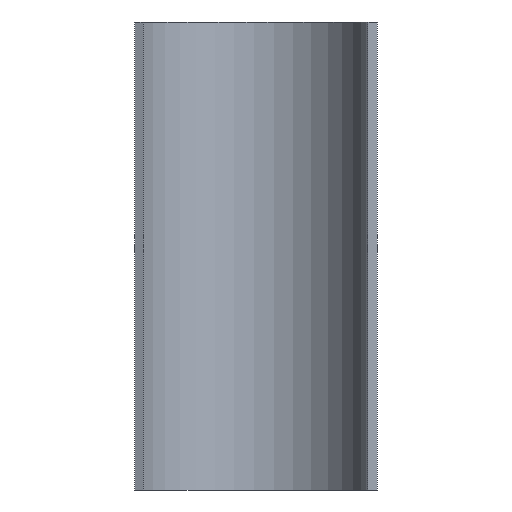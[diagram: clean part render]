
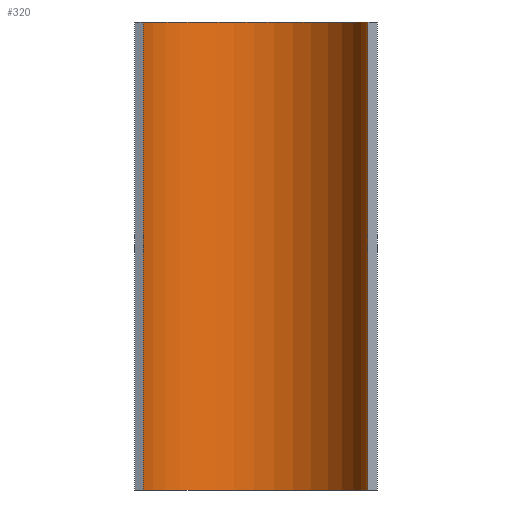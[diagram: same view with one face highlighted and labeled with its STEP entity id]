
A CAD part, left-side view. The second image highlights one B-rep face of the part: STEP entity #320.
In plain terms, the highlighted cylindrical face has radius 37 mm (diameter 74 mm), a partial arc.
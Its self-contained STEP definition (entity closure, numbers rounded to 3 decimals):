
#1 = VERTEX_POINT ( 'NONE', #135 ) ;
#10 = DIRECTION ( 'NONE',  ( 1., 0., 0. ) ) ;
#31 = VERTEX_POINT ( 'NONE', #274 ) ;
#32 = CARTESIAN_POINT ( 'NONE',  ( 0., 0., 148. ) ) ;
#43 = CARTESIAN_POINT ( 'NONE',  ( 0., 0., 148. ) ) ;
#48 = CYLINDRICAL_SURFACE ( 'NONE', #173, 37. ) ;
#49 = DIRECTION ( 'NONE',  ( -1., 0., 0. ) ) ;
#52 = CIRCLE ( 'NONE', #181, 37. ) ;
#64 = ORIENTED_EDGE ( 'NONE', *, *, #188, .T. ) ;
#65 = AXIS2_PLACEMENT_3D ( 'NONE', #32, #129, #10 ) ;
#76 = DIRECTION ( 'NONE',  ( 0., 0., -1. ) ) ;
#84 = LINE ( 'NONE', #184, #157 ) ;
#108 = CARTESIAN_POINT ( 'NONE',  ( 14.439, 34.066, 148. ) ) ;
#115 = DIRECTION ( 'NONE',  ( 1., 0., 0. ) ) ;
#116 = ORIENTED_EDGE ( 'NONE', *, *, #279, .F. ) ;
#124 = EDGE_LOOP ( 'NONE', ( #116, #306, #64, #139 ) ) ;
#129 = DIRECTION ( 'NONE',  ( 0., 0., 1. ) ) ;
#135 = CARTESIAN_POINT ( 'NONE',  ( 0., -37., 148. ) ) ;
#139 = ORIENTED_EDGE ( 'NONE', *, *, #148, .T. ) ;
#142 = DIRECTION ( 'NONE',  ( 0., 0., 1. ) ) ;
#148 = EDGE_CURVE ( 'NONE', #176, #31, #240, .T. ) ;
#154 = EDGE_CURVE ( 'NONE', #1, #237, #84, .T. ) ;
#157 = VECTOR ( 'NONE', #294, 1000. ) ;
#173 = AXIS2_PLACEMENT_3D ( 'NONE', #43, #76, #49 ) ;
#176 = VERTEX_POINT ( 'NONE', #318 ) ;
#181 = AXIS2_PLACEMENT_3D ( 'NONE', #226, #142, #115 ) ;
#184 = CARTESIAN_POINT ( 'NONE',  ( 0., -37., 148. ) ) ;
#185 = VECTOR ( 'NONE', #208, 1000. ) ;
#188 = EDGE_CURVE ( 'NONE', #1, #176, #270, .T. ) ;
#207 = CARTESIAN_POINT ( 'NONE',  ( 0., -37., 0. ) ) ;
#208 = DIRECTION ( 'NONE',  ( 0., 0., -1. ) ) ;
#226 = CARTESIAN_POINT ( 'NONE',  ( 0., 0., 0. ) ) ;
#237 = VERTEX_POINT ( 'NONE', #207 ) ;
#240 = LINE ( 'NONE', #108, #185 ) ;
#263 = FACE_OUTER_BOUND ( 'NONE', #124, .T. ) ;
#270 = CIRCLE ( 'NONE', #65, 37. ) ;
#274 = CARTESIAN_POINT ( 'NONE',  ( 14.439, 34.066, 0. ) ) ;
#279 = EDGE_CURVE ( 'NONE', #237, #31, #52, .T. ) ;
#294 = DIRECTION ( 'NONE',  ( 0., 0., -1. ) ) ;
#306 = ORIENTED_EDGE ( 'NONE', *, *, #154, .F. ) ;
#318 = CARTESIAN_POINT ( 'NONE',  ( 14.439, 34.066, 148. ) ) ;
#320 = ADVANCED_FACE ( 'NONE', ( #263 ), #48, .F. ) ;
